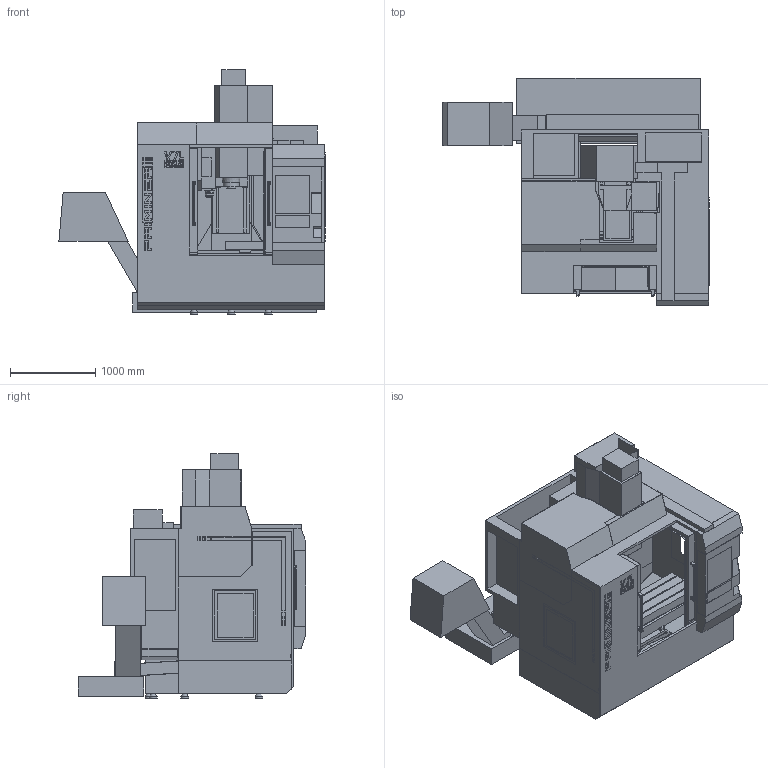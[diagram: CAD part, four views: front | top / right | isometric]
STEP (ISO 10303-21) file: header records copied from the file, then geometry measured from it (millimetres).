
FILE_DESCRIPTION(/* description */ (''),/* implementation_level */ '2;1');
FILE_NAME(/* name */ 'V7L-BT40-S12000-24刀库应用简化.stp',/* time_stamp */ '2025-08-08T13:48:21+08:00',/* author */ (''),/* organization */ (''),/* preprocessor_version */ 'ST-DEVELOPER v20',/* originating_system */ 'SIEMENS PLM Software NX2406.1700',/* authorisation */ '');
FILE_SCHEMA (('AUTOMOTIVE_DESIGN { 1 0 10303 214 3 1 1 1 }'));
Products named in the file (1): V7L-BT40-S12000-24刀库应用简化_object
s
Bounding box: 3123.18 x 2670 x 2869 mm (x, y, z)
Volume: 2965333171 mm3; surface area: 83789889.3 mm2
Topology: 56 solids, 72 shells, 1778 faces, 4690 edges, 3071 vertices
Faces by surface type: plane 1485, cylinder 201, extrusion 35, cone 25, bspline 24, torus 8
Full cylindrical faces by diameter (mm): 9 x2, 10 x3, 14 x3, 15 x1, 16 x1, 19 x1, 24 x2, 41 x1, 50 x4, 80 x1, 90 x7, 104.5 x1, 136 x1, 185 x1
Entity records: 58167 total; most frequent: CARTESIAN_POINT 13894, ORIENTED_EDGE 9248, DIRECTION 8256, EDGE_CURVE 4624, VECTOR 3986, LINE 3951, VERTEX_POINT 3047, AXIS2_PLACEMENT_3D 2135
